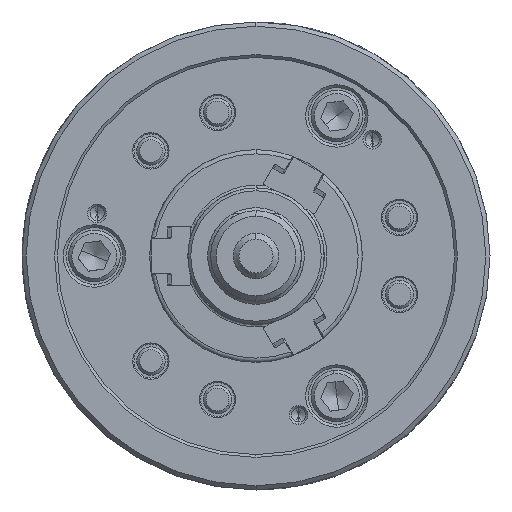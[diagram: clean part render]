
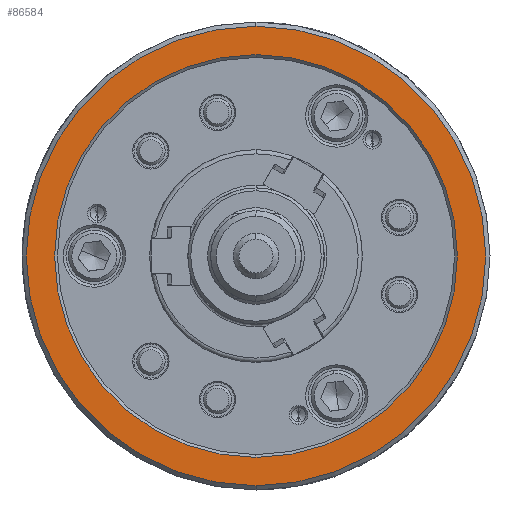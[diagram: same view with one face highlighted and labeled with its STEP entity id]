
A CAD part, left-side view. The second image highlights one B-rep face of the part: STEP entity #86584.
In plain terms, the highlighted planar face has unit normal (-1, 0, 0).
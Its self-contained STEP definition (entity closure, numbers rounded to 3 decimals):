
#35 = EDGE_CURVE ( 'NONE', #15417, #814, #73173, .T. ) ;
#814 = VERTEX_POINT ( 'NONE', #54525 ) ;
#5972 = DIRECTION ( 'NONE',  ( 1., 0., 0. ) ) ;
#6836 = AXIS2_PLACEMENT_3D ( 'NONE', #83024, #12905, #21036 ) ;
#7972 = ORIENTED_EDGE ( 'NONE', *, *, #89001, .F. ) ;
#8702 = EDGE_LOOP ( 'NONE', ( #45341, #63225 ) ) ;
#10055 = AXIS2_PLACEMENT_3D ( 'NONE', #89347, #83018, #21031 ) ;
#12152 = CARTESIAN_POINT ( 'NONE',  ( -74., 0., 0. ) ) ;
#12905 = DIRECTION ( 'NONE',  ( 1., 0., 0. ) ) ;
#15417 = VERTEX_POINT ( 'NONE', #62418 ) ;
#19246 = FACE_OUTER_BOUND ( 'NONE', #71166, .T. ) ;
#19699 = PLANE ( 'NONE',  #6836 ) ;
#21031 = DIRECTION ( 'NONE',  ( 0., 0., -1. ) ) ;
#21036 = DIRECTION ( 'NONE',  ( 0., 0., -1. ) ) ;
#22138 = CIRCLE ( 'NONE', #79973, 81. ) ;
#25048 = CIRCLE ( 'NONE', #36646, 71. ) ;
#25140 = VERTEX_POINT ( 'NONE', #51746 ) ;
#29286 = DIRECTION ( 'NONE',  ( 0., 0., -1. ) ) ;
#30498 = VERTEX_POINT ( 'NONE', #61441 ) ;
#32665 = CARTESIAN_POINT ( 'NONE',  ( -74., 0., 0. ) ) ;
#36646 = AXIS2_PLACEMENT_3D ( 'NONE', #41541, #76367, #29286 ) ;
#41541 = CARTESIAN_POINT ( 'NONE',  ( -74., 0., 0. ) ) ;
#45341 = ORIENTED_EDGE ( 'NONE', *, *, #46250, .T. ) ;
#46143 = DIRECTION ( 'NONE',  ( 0., 0., -1. ) ) ;
#46250 = EDGE_CURVE ( 'NONE', #30498, #25140, #25048, .T. ) ;
#51485 = AXIS2_PLACEMENT_3D ( 'NONE', #32665, #5972, #70180 ) ;
#51746 = CARTESIAN_POINT ( 'NONE',  ( -74., 0., -71. ) ) ;
#53660 = FACE_BOUND ( 'NONE', #8702, .T. ) ;
#54525 = CARTESIAN_POINT ( 'NONE',  ( -74., 0., 81. ) ) ;
#60584 = DIRECTION ( 'NONE',  ( 1., 0., 0. ) ) ;
#61441 = CARTESIAN_POINT ( 'NONE',  ( -74., 0., 71. ) ) ;
#62418 = CARTESIAN_POINT ( 'NONE',  ( -74., 0., -81. ) ) ;
#63225 = ORIENTED_EDGE ( 'NONE', *, *, #66949, .T. ) ;
#66949 = EDGE_CURVE ( 'NONE', #25140, #30498, #83753, .T. ) ;
#70180 = DIRECTION ( 'NONE',  ( 0., 0., -1. ) ) ;
#71166 = EDGE_LOOP ( 'NONE', ( #81748, #7972 ) ) ;
#73173 = CIRCLE ( 'NONE', #51485, 81. ) ;
#76367 = DIRECTION ( 'NONE',  ( 1., 0., 0. ) ) ;
#79973 = AXIS2_PLACEMENT_3D ( 'NONE', #12152, #60584, #46143 ) ;
#81748 = ORIENTED_EDGE ( 'NONE', *, *, #35, .F. ) ;
#83018 = DIRECTION ( 'NONE',  ( 1., 0., 0. ) ) ;
#83024 = CARTESIAN_POINT ( 'NONE',  ( -74., -81., 0. ) ) ;
#83753 = CIRCLE ( 'NONE', #10055, 71. ) ;
#86584 = ADVANCED_FACE ( 'NONE', ( #19246, #53660 ), #19699, .F. ) ;
#89001 = EDGE_CURVE ( 'NONE', #814, #15417, #22138, .T. ) ;
#89347 = CARTESIAN_POINT ( 'NONE',  ( -74., 0., 0. ) ) ;
